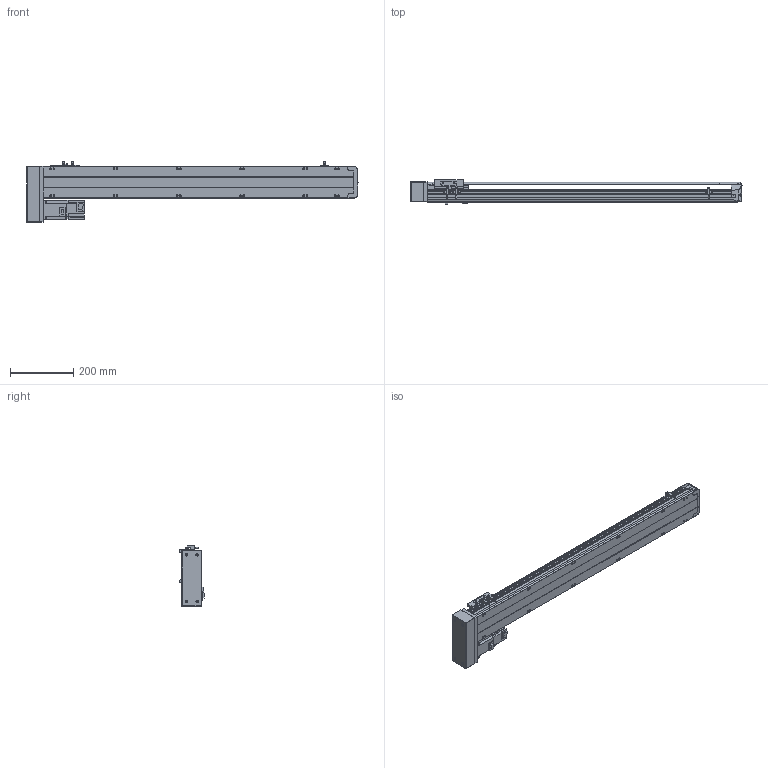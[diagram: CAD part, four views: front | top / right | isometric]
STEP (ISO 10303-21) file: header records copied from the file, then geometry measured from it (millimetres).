
FILE_DESCRIPTION(/* description */ ('STEP AP214'),/* implementation_level */ '2;1');
FILE_NAME(/* name */ 'PSS120-L10-S800-BR-T40-C1-N(0)',/* time_stamp */ '2022-06-06T02:30:51+02:00',/* author */ ('License CC BY-ND 4.0'),/* organization */ ('CADENAS'),/* preprocessor_version */ 'ST-DEVELOPER v18.102',/* originating_system */ 'PARTsolutions',/* authorisation */ ' ');
FILE_SCHEMA (('AUTOMOTIVE_DESIGN {1 0 10303 214 3 1 1}'));
Length unit declared in the file: millimetre
Products named in the file (8): PSS120-L10-S800-BR-T40-C1-N(0); PSS120-S800-BR-N_S; T40-p1; PSS120BR-N_h; PSS120-N_sensor; PSS120-BR-C1-N_sl; PSS120-N_Q; PSS120-S800-BR-C1-N_body
Assembly tree (9 placements, depth 2):
  PSS120-L10-S800-BR-T40-C1-N(0)
    PSS120-S800-BR-N_S
    T40-p1
    PSS120BR-N_h
    PSS120-N_sensor  x3
    PSS120-BR-C1-N_sl
    PSS120-N_Q
    PSS120-S800-BR-C1-N_body
Bounding box: 1049.35 x 76.8 x 191.2 mm (x, y, z)
Volume: 4116065.1 mm3; surface area: 696254.2 mm2
Topology: 9 solids, 9 shells, 848 faces, 2269 edges, 1500 vertices
Faces by surface type: plane 595, cylinder 229, cone 20, sphere 4
Full cylindrical faces by diameter (mm): 2.8 x3, 4 x4, 4.134 x16, 4.4 x2, 4.5 x4, 4.6 x3, 5 x6, 5.5 x19, 7 x2, 7.4 x4, 8 x4, 8.5 x16, 14 x1, 28 x1, 32 x2, 50 x1
Entity records: 22813 total; most frequent: CARTESIAN_POINT 4123, DIRECTION 3803, ORIENTED_EDGE 3706, EDGE_CURVE 1853, LINE 1323, VECTOR 1323, VERTEX_POINT 1284, AXIS2_PLACEMENT_3D 1240
